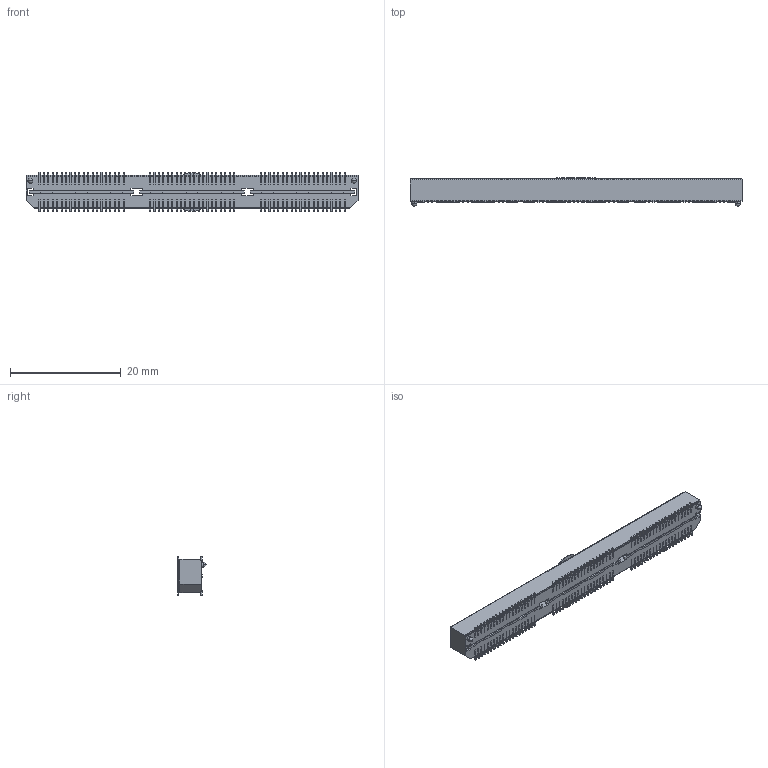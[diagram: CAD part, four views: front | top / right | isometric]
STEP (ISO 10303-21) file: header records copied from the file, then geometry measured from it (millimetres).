
FILE_DESCRIPTION (( 'STEP AP203' ), '1' );
FILE_NAME ('GT-B0806MSV01-120B0401.STEP', '2026-05-07T01:48:44', ( '' ), ( '' ), 'SwSTEP 2.0', 'SolidWorks 2020', '' );
FILE_SCHEMA (( 'CONFIG_CONTROL_DESIGN' ));
Length unit declared in the file: millimetre
Products named in the file (7): GT-B0806MSV01-120B0401.stp; GT-B0806MSV01-120B0401; 22.stp; 33.stp; 55.stp; 44.stp; 11.stp
Assembly tree (12 placements, depth 3):
  GT-B0806MSV01-120B0401
    GT-B0806MSV01-120B0401.stp
      11.stp
      22.stp  x3
      33.stp  x3
      44.stp  x3
      55.stp
Bounding box: 60.02 x 5.11 x 7.11 mm (x, y, z)
Volume: 1013.7 mm3; surface area: 4043.1 mm2
Topology: 11 solids, 11 shells, 3242 faces, 9592 edges, 6390 vertices
Faces by surface type: plane 2915, cylinder 252, bspline 71, sphere 4
Entity records: 58617 total; most frequent: CARTESIAN_POINT 14199, ORIENTED_EDGE 9720, DIRECTION 7934, EDGE_CURVE 4860, VECTOR 4532, LINE 4532, VERTEX_POINT 3238, AXIS2_PLACEMENT_3D 1701
